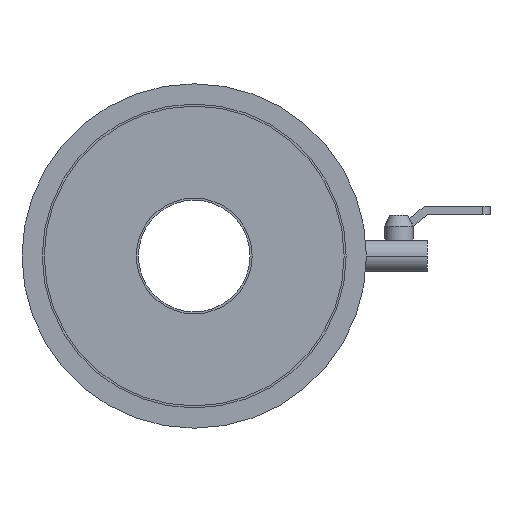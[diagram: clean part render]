
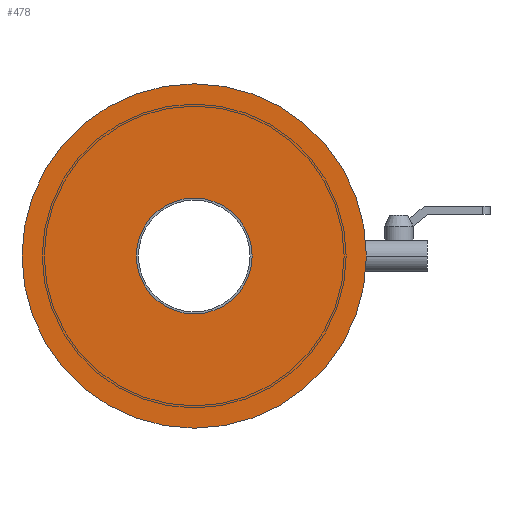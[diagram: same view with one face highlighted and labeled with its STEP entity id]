
A CAD part, left-side view. The second image highlights one B-rep face of the part: STEP entity #478.
In plain terms, the highlighted planar face has unit normal (-1, 0, 0).
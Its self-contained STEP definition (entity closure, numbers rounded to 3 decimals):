
#149=CARTESIAN_POINT('',(-453.,0.,0.));
#150=DIRECTION('',(-1.,0.,0.));
#151=DIRECTION('',(0.,1.,0.));
#152=AXIS2_PLACEMENT_3D('',#149,#150,#151);
#154=CARTESIAN_POINT('',(-453.,0.,0.));
#155=DIRECTION('',(1.,0.,0.));
#156=DIRECTION('',(0.,1.,0.));
#157=AXIS2_PLACEMENT_3D('',#154,#155,#156);
#159=CARTESIAN_POINT('',(-453.,0.,0.));
#160=DIRECTION('',(1.,0.,0.));
#161=DIRECTION('',(0.,1.,0.));
#162=AXIS2_PLACEMENT_3D('',#159,#160,#161);
#164=CARTESIAN_POINT('',(-453.,0.,0.));
#165=DIRECTION('',(1.,0.,0.));
#166=DIRECTION('',(0.,-1.,0.));
#167=AXIS2_PLACEMENT_3D('',#164,#165,#166);
#346=CARTESIAN_POINT('',(-453.,170.,0.));
#348=VERTEX_POINT('',#346);
#358=CARTESIAN_POINT('',(-453.,-170.,0.));
#360=VERTEX_POINT('',#358);
#397=CARTESIAN_POINT('',(-453.,57.15,0.));
#398=CARTESIAN_POINT('',(-453.,-57.15,0.));
#399=VERTEX_POINT('',#397);
#400=VERTEX_POINT('',#398);
#462=CARTESIAN_POINT('',(-453.,0.,0.));
#463=DIRECTION('',(1.,0.,0.));
#464=DIRECTION('',(0.,-1.,0.));
#465=AXIS2_PLACEMENT_3D('',#462,#463,#464);
#466=PLANE('',#465);
#468=ORIENTED_EDGE('',*,*,#467,.F.);
#470=ORIENTED_EDGE('',*,*,#469,.T.);
#471=EDGE_LOOP('',(#468,#470));
#472=FACE_OUTER_BOUND('',#471,.F.);
#474=ORIENTED_EDGE('',*,*,#473,.F.);
#475=ORIENTED_EDGE('',*,*,#452,.F.);
#476=EDGE_LOOP('',(#474,#475));
#477=FACE_BOUND('',#476,.F.);
#153=CIRCLE('',#152,170.);
#158=CIRCLE('',#157,170.);
#163=CIRCLE('',#162,57.15);
#168=CIRCLE('',#167,57.15);
#452=EDGE_CURVE('',#400,#399,#168,.T.);
#467=EDGE_CURVE('',#348,#360,#153,.T.);
#469=EDGE_CURVE('',#348,#360,#158,.T.);
#473=EDGE_CURVE('',#399,#400,#163,.T.);
#478=ADVANCED_FACE('',(#472,#477),#466,.F.);
